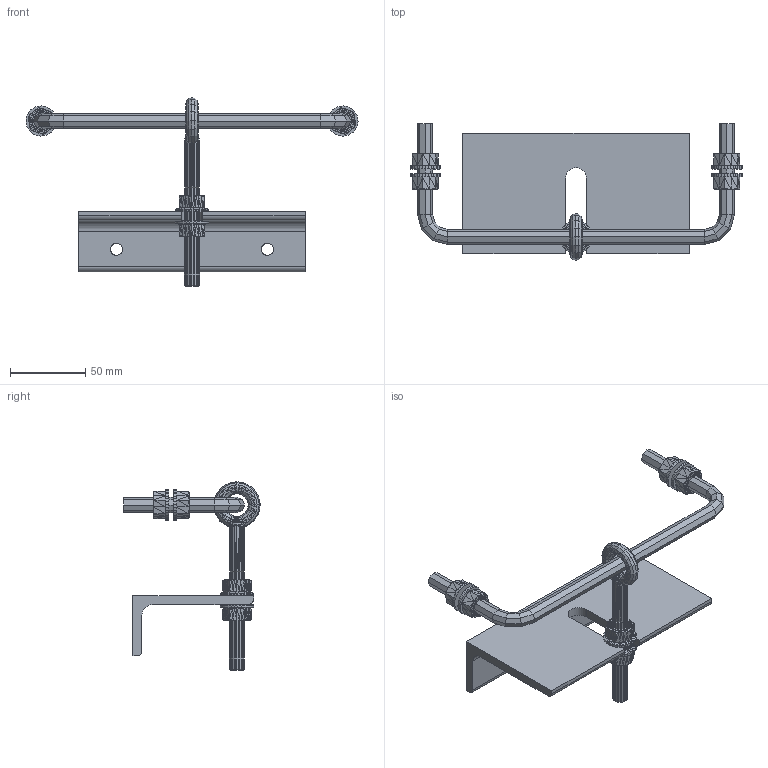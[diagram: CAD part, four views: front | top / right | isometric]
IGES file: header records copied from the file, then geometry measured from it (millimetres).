
Global section: file name: Filename.iges; native system: Open CASCADE 7.0; preprocessor: Open CASCADE IGES processor 7.0; author: gholl; date: 20220906.092650; units: millimetre
Bounding box: 219.99 x 90.49 x 124.99 mm (x, y, z)
Surface area: 60454.2 mm2 (no closed solid volume)
Topology: 0 solids, 0 shells, 4368 faces, 14408 edges, 14404 vertices
Faces by surface type: plane 4361, revolution 7
